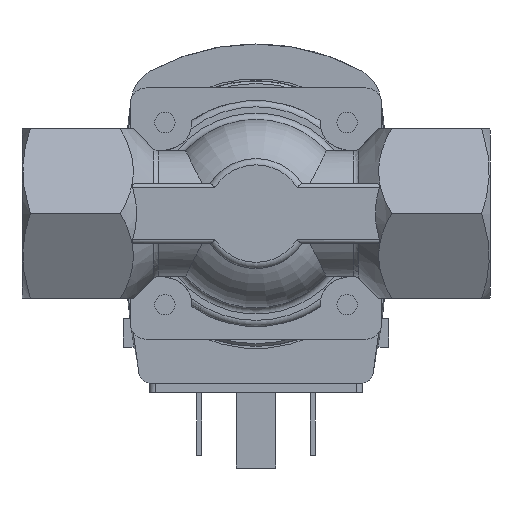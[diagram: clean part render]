
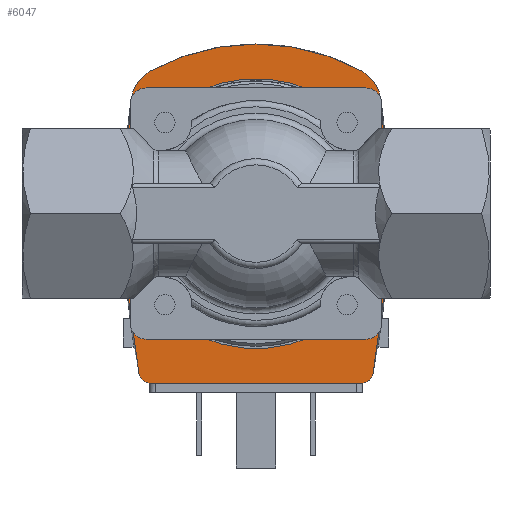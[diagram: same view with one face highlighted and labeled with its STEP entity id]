
A CAD part, front view. The second image highlights one B-rep face of the part: STEP entity #6047.
In plain terms, the highlighted planar face has unit normal (0, -1, 0).
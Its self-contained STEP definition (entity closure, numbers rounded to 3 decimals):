
#151=PLANE('',#6568);
#617=CIRCLE('',#6522,2.);
#618=CIRCLE('',#6524,2.);
#621=CIRCLE('',#6537,130.);
#626=CIRCLE('',#6549,130.);
#631=CIRCLE('',#6563,6.);
#632=CIRCLE('',#6565,35.);
#633=CIRCLE('',#6567,6.);
#1653=ORIENTED_EDGE('',*,*,#2460,.F.);
#1654=ORIENTED_EDGE('',*,*,#2503,.F.);
#1655=ORIENTED_EDGE('',*,*,#2524,.F.);
#1656=ORIENTED_EDGE('',*,*,#2522,.F.);
#1657=ORIENTED_EDGE('',*,*,#2520,.F.);
#1658=ORIENTED_EDGE('',*,*,#2482,.F.);
#1659=ORIENTED_EDGE('',*,*,#2464,.F.);
#1660=ORIENTED_EDGE('',*,*,#2515,.F.);
#2460=EDGE_CURVE('',#2998,#2999,#617,.T.);
#2464=EDGE_CURVE('',#3001,#3002,#618,.T.);
#2482=EDGE_CURVE('',#3002,#3017,#621,.T.);
#2503=EDGE_CURVE('',#3036,#2998,#626,.T.);
#2515=EDGE_CURVE('',#2999,#3001,#3344,.T.);
#2520=EDGE_CURVE('',#3017,#3049,#631,.T.);
#2522=EDGE_CURVE('',#3049,#3050,#632,.T.);
#2524=EDGE_CURVE('',#3050,#3036,#633,.T.);
#2998=VERTEX_POINT('',#9507);
#2999=VERTEX_POINT('',#9509);
#3001=VERTEX_POINT('',#9518);
#3002=VERTEX_POINT('',#9520);
#3017=VERTEX_POINT('',#9556);
#3036=VERTEX_POINT('',#9596);
#3049=VERTEX_POINT('',#9630);
#3050=VERTEX_POINT('',#9634);
#3344=LINE('',#9620,#3678);
#3678=VECTOR('',#7722,1000.);
#4083=EDGE_LOOP('',(#1653,#1654,#1655,#1656,#1657,#1658,#1659,#1660));
#4471=FACE_BOUND('',#4083,.T.);
#6047=ADVANCED_FACE('',(#4471),#151,.F.);
#6522=AXIS2_PLACEMENT_3D('',#9508,#7627,#7628);
#6524=AXIS2_PLACEMENT_3D('',#9519,#7633,#7634);
#6537=AXIS2_PLACEMENT_3D('',#9555,#7667,#7668);
#6549=AXIS2_PLACEMENT_3D('',#9597,#7701,#7702);
#6563=AXIS2_PLACEMENT_3D('',#9629,#7735,#7736);
#6565=AXIS2_PLACEMENT_3D('',#9633,#7740,#7741);
#6567=AXIS2_PLACEMENT_3D('',#9637,#7745,#7746);
#6568=AXIS2_PLACEMENT_3D('',#9638,#7747,#7748);
#7627=DIRECTION('',(0.,1.,0.));
#7628=DIRECTION('',(1.,0.,0.));
#7633=DIRECTION('',(0.,1.,0.));
#7634=DIRECTION('',(1.,0.,0.));
#7667=DIRECTION('',(0.,1.,0.));
#7668=DIRECTION('',(1.,0.,0.));
#7701=DIRECTION('',(0.,1.,0.));
#7702=DIRECTION('',(1.,0.,0.));
#7722=DIRECTION('',(0.,0.,1.));
#7735=DIRECTION('',(0.,1.,0.));
#7736=DIRECTION('',(1.,0.,0.));
#7740=DIRECTION('',(0.,1.,0.));
#7741=DIRECTION('',(1.,0.,0.));
#7745=DIRECTION('',(0.,1.,0.));
#7746=DIRECTION('',(1.,0.,0.));
#7747=DIRECTION('',(0.,1.,0.));
#7748=DIRECTION('',(0.,0.,1.));
#9507=CARTESIAN_POINT('',(-25.391,-39.4,-18.646));
#9508=CARTESIAN_POINT('',(-25.,-39.4,-16.685));
#9509=CARTESIAN_POINT('',(-27.,-39.4,-16.685));
#9518=CARTESIAN_POINT('',(-27.,-39.4,16.685));
#9519=CARTESIAN_POINT('',(-25.,-39.4,16.685));
#9520=CARTESIAN_POINT('',(-25.391,-39.4,18.646));
#9555=CARTESIAN_POINT('',(0.,-39.4,-108.85));
#9556=CARTESIAN_POINT('',(18.286,-39.4,19.857));
#9596=CARTESIAN_POINT('',(18.286,-39.4,-19.857));
#9597=CARTESIAN_POINT('',(0.,-39.4,108.85));
#9620=CARTESIAN_POINT('',(-27.,-39.4,-16.685));
#9629=CARTESIAN_POINT('',(17.442,-39.4,13.917));
#9630=CARTESIAN_POINT('',(22.706,-39.4,16.797));
#9633=CARTESIAN_POINT('',(-8.,-39.4,0.));
#9634=CARTESIAN_POINT('',(22.706,-39.4,-16.797));
#9637=CARTESIAN_POINT('',(17.442,-39.4,-13.917));
#9638=CARTESIAN_POINT('',(-25.,-39.4,-16.685));
